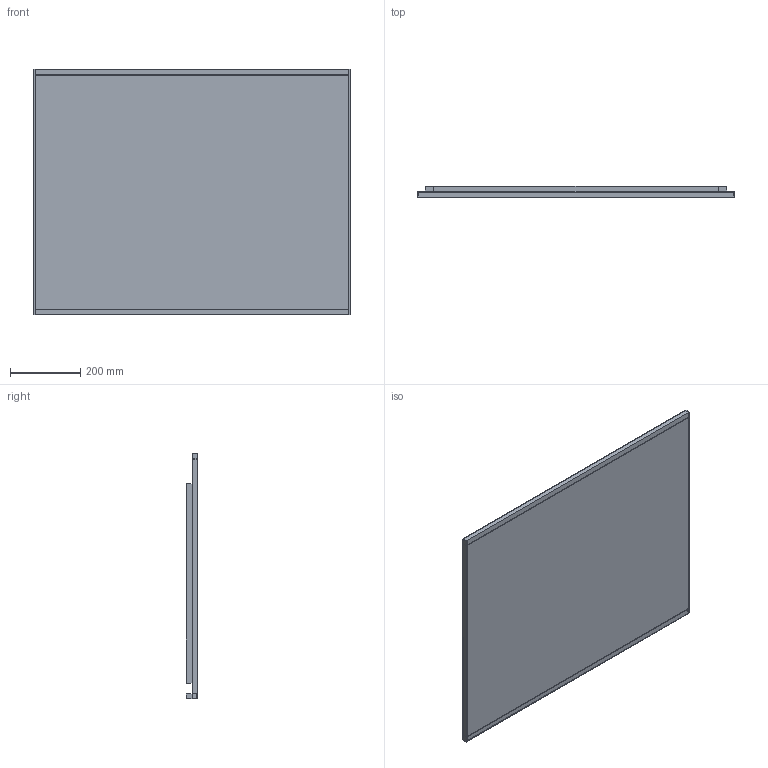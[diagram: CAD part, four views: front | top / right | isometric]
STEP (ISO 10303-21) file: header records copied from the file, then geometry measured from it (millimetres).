
FILE_DESCRIPTION(/* description */ (''),/* implementation_level */ '2;1');
FILE_NAME(/* name */ 'C:\Planerdaten\Export PLA\502.783.00.1\stp\502783.stp',/* time_stamp */ '2022-12-02T15:04:47+01:00',/* author */ ('JANAN'),/* organization */ (''),/* preprocessor_version */ 'ST-DEVELOPER v18.1',/* originating_system */ 'Autodesk Inventor 2021',/* authorisation */ '');
FILE_SCHEMA (('AUTOMOTIVE_DESIGN { 1 0 10303 214 3 1 1 }'));
Length unit declared in the file: millimetre
Products named in the file (1): tmpB242.tmp
Bounding box: 900 x 32 x 700 mm (x, y, z)
Volume: 16840056.5 mm3; surface area: 2774481 mm2
Topology: 4 solids, 4 shells, 63 faces, 154 edges, 104 vertices
Faces by surface type: plane 59, cylinder 4
Full cylindrical faces by diameter (mm): 8 x4
Entity records: 1959 total; most frequent: CARTESIAN_POINT 322, ORIENTED_EDGE 308, DIRECTION 298, EDGE_CURVE 154, LINE 138, VECTOR 138, VERTEX_POINT 104, AXIS2_PLACEMENT_3D 80
